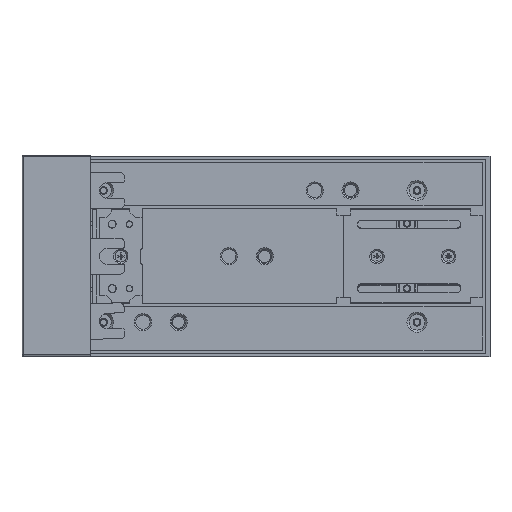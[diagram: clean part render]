
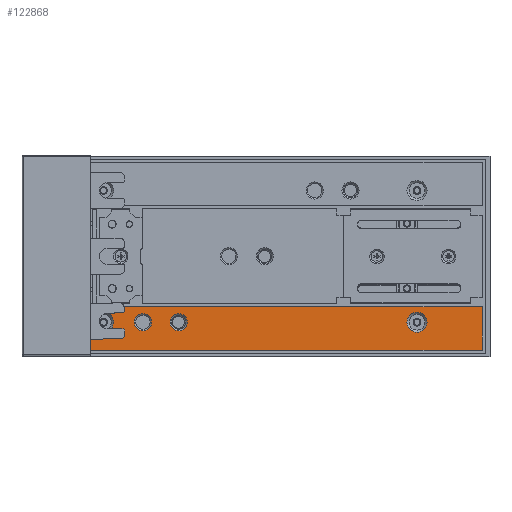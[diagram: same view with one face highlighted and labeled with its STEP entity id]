
A CAD part, top view. The second image highlights one B-rep face of the part: STEP entity #122868.
In plain terms, the highlighted planar face has unit normal (0, 0, 1) by its records, which use the part's own axes.
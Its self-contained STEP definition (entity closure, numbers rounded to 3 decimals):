
#1731 = CARTESIAN_POINT ( 'NONE',  ( 167.391, 205.515, 341.751 ) ) ;
#2074 = VERTEX_POINT ( 'NONE', #94343 ) ;
#2111 = FACE_BOUND ( 'NONE', #68258, .T. ) ;
#4063 = VECTOR ( 'NONE', #70483, 1000. ) ;
#7361 = FACE_BOUND ( 'NONE', #32612, .T. ) ;
#9114 = CARTESIAN_POINT ( 'NONE',  ( 167.391, 140.015, 341.751 ) ) ;
#10233 = EDGE_CURVE ( 'NONE', #40220, #40220, #120410, .T. ) ;
#13670 = EDGE_CURVE ( 'NONE', #35195, #60855, #85142, .T. ) ;
#17644 = DIRECTION ( 'NONE',  ( 1., 0., 0. ) ) ;
#18102 = EDGE_LOOP ( 'NONE', ( #110465, #21578, #31908, #129816 ) ) ;
#21578 = ORIENTED_EDGE ( 'NONE', *, *, #13670, .T. ) ;
#23488 = DIRECTION ( 'NONE',  ( 0., 1., 0. ) ) ;
#24187 = EDGE_LOOP ( 'NONE', ( #67938 ) ) ;
#24534 = DIRECTION ( 'NONE',  ( 0., 0., -1. ) ) ;
#28753 = DIRECTION ( 'NONE',  ( 0., 0., -1. ) ) ;
#29450 = EDGE_CURVE ( 'NONE', #2074, #2074, #50764, .T. ) ;
#31159 = CIRCLE ( 'NONE', #124105, 6. ) ;
#31437 = FACE_BOUND ( 'NONE', #107833, .T. ) ;
#31872 = VECTOR ( 'NONE', #107766, 1000. ) ;
#31908 = ORIENTED_EDGE ( 'NONE', *, *, #75696, .T. ) ;
#32612 = EDGE_LOOP ( 'NONE', ( #50859 ) ) ;
#35195 = VERTEX_POINT ( 'NONE', #88386 ) ;
#37155 = CARTESIAN_POINT ( 'NONE',  ( 11.891, 205.515, 341.751 ) ) ;
#40220 = VERTEX_POINT ( 'NONE', #49096 ) ;
#41731 = CARTESIAN_POINT ( 'NONE',  ( -107.109, 140.015, 341.751 ) ) ;
#42340 = CARTESIAN_POINT ( 'NONE',  ( -107.109, 205.515, 341.751 ) ) ;
#42399 = EDGE_CURVE ( 'NONE', #93988, #92276, #81652, .T. ) ;
#42931 = CARTESIAN_POINT ( 'NONE',  ( -97.109, 159.515, 341.751 ) ) ;
#44770 = DIRECTION ( 'NONE',  ( 1., 0., 0. ) ) ;
#48936 = VECTOR ( 'NONE', #68981, 1000. ) ;
#49096 = CARTESIAN_POINT ( 'NONE',  ( -90.109, 159.515, 341.751 ) ) ;
#50764 = CIRCLE ( 'NONE', #88446, 6. ) ;
#50859 = ORIENTED_EDGE ( 'NONE', *, *, #70292, .T. ) ;
#52678 = AXIS2_PLACEMENT_3D ( 'NONE', #110477, #132165, #65802 ) ;
#54787 = EDGE_CURVE ( 'NONE', #92276, #35195, #99434, .T. ) ;
#57763 = CIRCLE ( 'NONE', #52678, 7. ) ;
#59429 = CARTESIAN_POINT ( 'NONE',  ( 11.891, 140.015, 341.751 ) ) ;
#60855 = VERTEX_POINT ( 'NONE', #136082 ) ;
#61219 = LINE ( 'NONE', #42340, #31872 ) ;
#63689 = EDGE_CURVE ( 'NONE', #81182, #81182, #57763, .T. ) ;
#65612 = DIRECTION ( 'NONE',  ( 0., 0., -1. ) ) ;
#65802 = DIRECTION ( 'NONE',  ( 1., 0., 0. ) ) ;
#67298 = CARTESIAN_POINT ( 'NONE',  ( 128.891, 159.515, 341.751 ) ) ;
#67938 = ORIENTED_EDGE ( 'NONE', *, *, #29450, .T. ) ;
#68258 = EDGE_LOOP ( 'NONE', ( #71604 ) ) ;
#68981 = DIRECTION ( 'NONE',  ( -1., 0., 0. ) ) ;
#70292 = EDGE_CURVE ( 'NONE', #89706, #89706, #31159, .T. ) ;
#70483 = DIRECTION ( 'NONE',  ( 1., 0., 0. ) ) ;
#71604 = ORIENTED_EDGE ( 'NONE', *, *, #10233, .T. ) ;
#74561 = FACE_BOUND ( 'NONE', #24187, .T. ) ;
#75696 = EDGE_CURVE ( 'NONE', #60855, #93988, #61219, .T. ) ;
#77977 = AXIS2_PLACEMENT_3D ( 'NONE', #37155, #137268, #92563 ) ;
#81182 = VERTEX_POINT ( 'NONE', #67298 ) ;
#81652 = LINE ( 'NONE', #59429, #4063 ) ;
#81980 = PLANE ( 'NONE',  #77977 ) ;
#84162 = ORIENTED_EDGE ( 'NONE', *, *, #63689, .T. ) ;
#85142 = LINE ( 'NONE', #124287, #48936 ) ;
#88386 = CARTESIAN_POINT ( 'NONE',  ( 167.391, 170.265, 341.751 ) ) ;
#88446 = AXIS2_PLACEMENT_3D ( 'NONE', #138948, #28753, #17644 ) ;
#89706 = VERTEX_POINT ( 'NONE', #91275 ) ;
#91275 = CARTESIAN_POINT ( 'NONE',  ( -63.609, 159.515, 341.751 ) ) ;
#92276 = VERTEX_POINT ( 'NONE', #9114 ) ;
#92563 = DIRECTION ( 'NONE',  ( 1., 0., 0. ) ) ;
#93988 = VERTEX_POINT ( 'NONE', #41731 ) ;
#94343 = CARTESIAN_POINT ( 'NONE',  ( -38.609, 159.515, 341.751 ) ) ;
#97367 = DIRECTION ( 'NONE',  ( 1., 0., 0. ) ) ;
#99434 = LINE ( 'NONE', #1731, #142371 ) ;
#106937 = AXIS2_PLACEMENT_3D ( 'NONE', #42931, #65612, #97367 ) ;
#107766 = DIRECTION ( 'NONE',  ( 0., -1., 0. ) ) ;
#107833 = EDGE_LOOP ( 'NONE', ( #84162 ) ) ;
#110465 = ORIENTED_EDGE ( 'NONE', *, *, #54787, .T. ) ;
#110477 = CARTESIAN_POINT ( 'NONE',  ( 121.891, 159.515, 341.751 ) ) ;
#120410 = CIRCLE ( 'NONE', #106937, 7. ) ;
#122868 = ADVANCED_FACE ( 'NONE', ( #74561, #7361, #2111, #31437, #129643 ), #81980, .T. ) ;
#124105 = AXIS2_PLACEMENT_3D ( 'NONE', #134270, #24534, #44770 ) ;
#124287 = CARTESIAN_POINT ( 'NONE',  ( 11.891, 170.265, 341.751 ) ) ;
#129643 = FACE_OUTER_BOUND ( 'NONE', #18102, .T. ) ;
#129816 = ORIENTED_EDGE ( 'NONE', *, *, #42399, .T. ) ;
#132165 = DIRECTION ( 'NONE',  ( 0., 0., -1. ) ) ;
#134270 = CARTESIAN_POINT ( 'NONE',  ( -69.609, 159.515, 341.751 ) ) ;
#136082 = CARTESIAN_POINT ( 'NONE',  ( -107.109, 170.265, 341.751 ) ) ;
#137268 = DIRECTION ( 'NONE',  ( 0., 0., 1. ) ) ;
#138948 = CARTESIAN_POINT ( 'NONE',  ( -44.609, 159.515, 341.751 ) ) ;
#142371 = VECTOR ( 'NONE', #23488, 1000. ) ;
